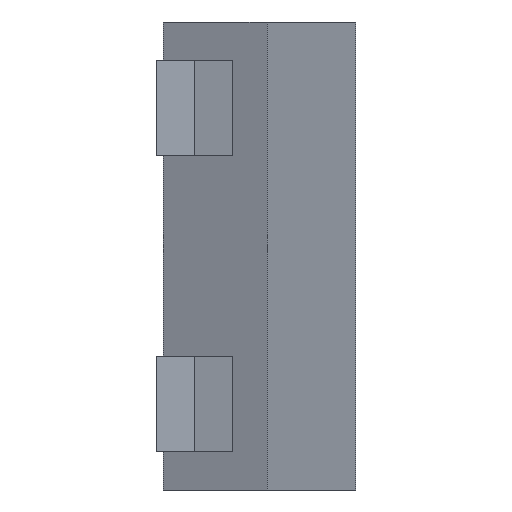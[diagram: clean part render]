
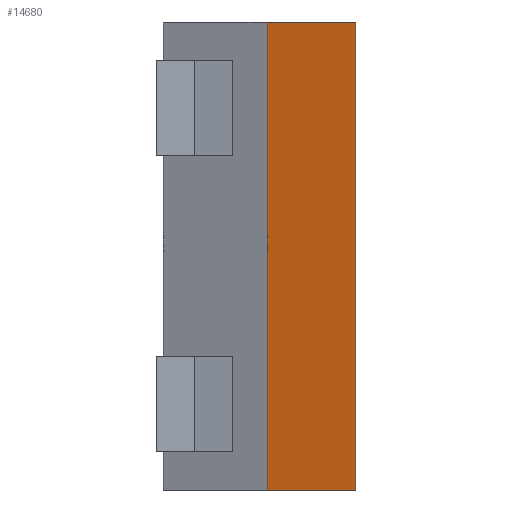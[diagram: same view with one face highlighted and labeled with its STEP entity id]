
A CAD part, front view. The second image highlights one B-rep face of the part: STEP entity #14680.
In plain terms, the highlighted planar face has unit normal (0.906, -0.423, 0).
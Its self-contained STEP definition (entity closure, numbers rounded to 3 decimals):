
#14680 = ADVANCED_FACE('',(#14681),#14695,.F.);
#14681 = FACE_BOUND('',#14682,.T.);
#14682 = EDGE_LOOP('',(#14683,#14706,#14722,#14738));
#14683 = ORIENTED_EDGE('',*,*,#14684,.F.);
#14684 = EDGE_CURVE('',#14685,#14687,#14689,.T.);
#14685 = VERTEX_POINT('',#14686);
#14686 = CARTESIAN_POINT('',(5.963,13.702,-0.8));
#14687 = VERTEX_POINT('',#14688);
#14688 = CARTESIAN_POINT('',(5.963,13.702,9.));
#14689 = SURFACE_CURVE('',#14690,(#14694),.PCURVE_S1.);
#14690 = LINE('',#14691,#14692);
#14691 = CARTESIAN_POINT('',(5.963,13.702,-0.8));
#14692 = VECTOR('',#14693,1.);
#14693 = DIRECTION('',(0.,0.,1.));
#14694 = PCURVE('',#14695,#14700);
#14695 = PLANE('',#14696);
#14696 = AXIS2_PLACEMENT_3D('',#14697,#14698,#14699);
#14697 = CARTESIAN_POINT('',(-0.35,0.163,0.));
#14698 = DIRECTION('',(-0.906,0.423,0.));
#14699 = DIRECTION('',(-0.423,-0.906,0.));
#14700 = DEFINITIONAL_REPRESENTATION('',(#14701),#14705);
#14701 = LINE('',#14702,#14703);
#14702 = CARTESIAN_POINT('',(-14.938,-0.8));
#14703 = VECTOR('',#14704,1.);
#14704 = DIRECTION('',(0.,1.));
#14705 = ( GEOMETRIC_REPRESENTATION_CONTEXT(2) 
PARAMETRIC_REPRESENTATION_CONTEXT() REPRESENTATION_CONTEXT('2D SPACE',''
  ) );
#14706 = ORIENTED_EDGE('',*,*,#14707,.F.);
#14707 = EDGE_CURVE('',#14708,#14685,#14710,.T.);
#14708 = VERTEX_POINT('',#14709);
#14709 = CARTESIAN_POINT('',(7.822,17.689,-0.8));
#14710 = SURFACE_CURVE('',#14711,(#14715),.PCURVE_S1.);
#14711 = LINE('',#14712,#14713);
#14712 = CARTESIAN_POINT('',(7.822,17.689,-0.8));
#14713 = VECTOR('',#14714,1.);
#14714 = DIRECTION('',(-0.423,-0.906,0.));
#14715 = PCURVE('',#14695,#14716);
#14716 = DEFINITIONAL_REPRESENTATION('',(#14717),#14721);
#14717 = LINE('',#14718,#14719);
#14718 = CARTESIAN_POINT('',(-19.338,-0.8));
#14719 = VECTOR('',#14720,1.);
#14720 = DIRECTION('',(1.,0.));
#14721 = ( GEOMETRIC_REPRESENTATION_CONTEXT(2) 
PARAMETRIC_REPRESENTATION_CONTEXT() REPRESENTATION_CONTEXT('2D SPACE',''
  ) );
#14722 = ORIENTED_EDGE('',*,*,#14723,.F.);
#14723 = EDGE_CURVE('',#14724,#14708,#14726,.T.);
#14724 = VERTEX_POINT('',#14725);
#14725 = CARTESIAN_POINT('',(7.822,17.689,9.));
#14726 = SURFACE_CURVE('',#14727,(#14731),.PCURVE_S1.);
#14727 = LINE('',#14728,#14729);
#14728 = CARTESIAN_POINT('',(7.822,17.689,9.));
#14729 = VECTOR('',#14730,1.);
#14730 = DIRECTION('',(0.,0.,-1.));
#14731 = PCURVE('',#14695,#14732);
#14732 = DEFINITIONAL_REPRESENTATION('',(#14733),#14737);
#14733 = LINE('',#14734,#14735);
#14734 = CARTESIAN_POINT('',(-19.338,9.));
#14735 = VECTOR('',#14736,1.);
#14736 = DIRECTION('',(0.,-1.));
#14737 = ( GEOMETRIC_REPRESENTATION_CONTEXT(2) 
PARAMETRIC_REPRESENTATION_CONTEXT() REPRESENTATION_CONTEXT('2D SPACE',''
  ) );
#14738 = ORIENTED_EDGE('',*,*,#14739,.F.);
#14739 = EDGE_CURVE('',#14687,#14724,#14740,.T.);
#14740 = SURFACE_CURVE('',#14741,(#14745),.PCURVE_S1.);
#14741 = LINE('',#14742,#14743);
#14742 = CARTESIAN_POINT('',(5.963,13.702,9.));
#14743 = VECTOR('',#14744,1.);
#14744 = DIRECTION('',(0.423,0.906,0.));
#14745 = PCURVE('',#14695,#14746);
#14746 = DEFINITIONAL_REPRESENTATION('',(#14747),#14751);
#14747 = LINE('',#14748,#14749);
#14748 = CARTESIAN_POINT('',(-14.938,9.));
#14749 = VECTOR('',#14750,1.);
#14750 = DIRECTION('',(-1.,0.));
#14751 = ( GEOMETRIC_REPRESENTATION_CONTEXT(2) 
PARAMETRIC_REPRESENTATION_CONTEXT() REPRESENTATION_CONTEXT('2D SPACE',''
  ) );
